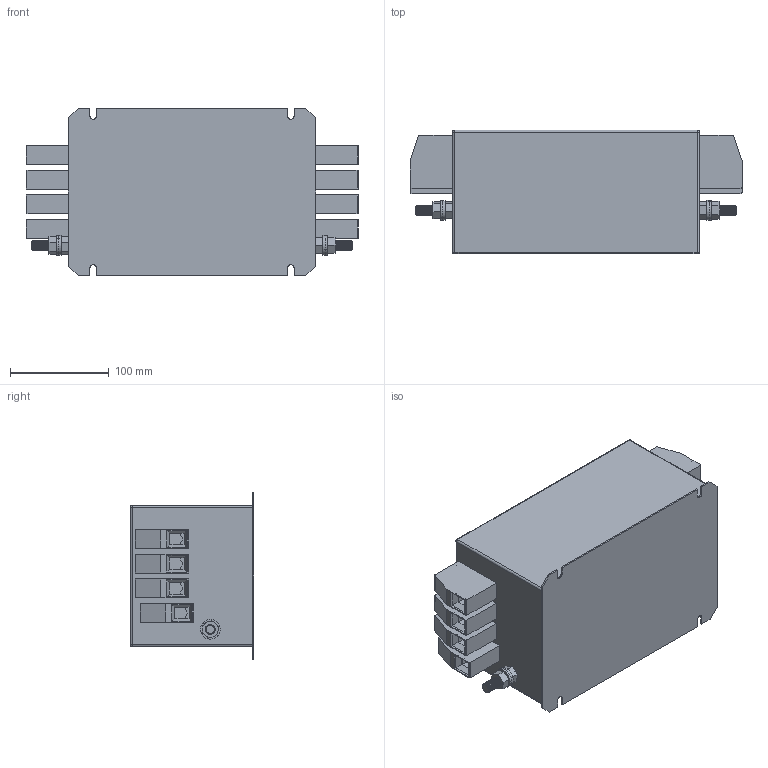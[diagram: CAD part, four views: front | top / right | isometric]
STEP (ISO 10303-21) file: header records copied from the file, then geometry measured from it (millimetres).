
FILE_DESCRIPTION (( 'STEP AP203' ), '1' );
FILE_NAME ('NF-4-120-FTR.STEP', '2018-02-12T14:52:07', ( '' ), ( '' ), 'SwSTEP 2.0', 'SolidWorks 2017', '' );
FILE_SCHEMA (( 'CONFIG_CONTROL_DESIGN' ));
Length unit declared in the file: millimetre
Products named in the file (7): FTR-120; M10x30 Earth post; hex nut style 1_am_B18.2.4.1M - Hex nut, Style 1,  M10 x 1.5, with 16mm WAF --D-N; NF-4-120-FTR; hex screw_am_B18.6.7M - M10 x 1.5 x 30 Indented HHMS --30S; flat washer narrow_am_B18.22M - Plain washer, 10 mm, narrow; HDFK-50
Assembly tree (15 placements, depth 3):
  NF-4-120-FTR
    FTR-120
    M10x30 Earth post  x2
      flat washer narrow_am_B18.22M - Plain washer, 10 mm, narrow
      hex nut style 1_am_B18.2.4.1M - Hex nut, Style 1,  M10 x 1.5, with 16mm WAF --D-N
      hex screw_am_B18.6.7M - M10 x 1.5 x 30 Indented HHMS --30S
    HDFK-50  x8
Bounding box: 336.01 x 125 x 170 mm (x, y, z)
Volume: 4551830 mm3; surface area: 421934.1 mm2
Topology: 18 solids, 18 shells, 896 faces, 2180 edges, 1384 vertices
Faces by surface type: plane 480, cylinder 212, cone 200, sphere 4
Entity records: 9949 total; most frequent: CARTESIAN_POINT 1713, DIRECTION 1616, ORIENTED_EDGE 1468, EDGE_CURVE 734, AXIS2_PLACEMENT_3D 605, VERTEX_POINT 462, LINE 406, VECTOR 406
